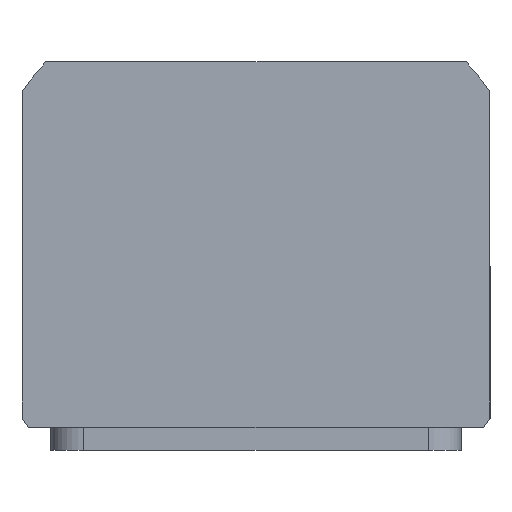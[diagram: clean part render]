
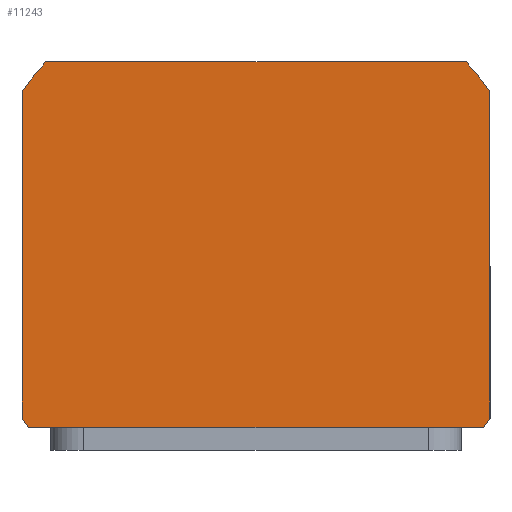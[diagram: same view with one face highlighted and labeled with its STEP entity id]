
A CAD part, top view. The second image highlights one B-rep face of the part: STEP entity #11243.
In plain terms, the highlighted planar face has unit normal (0, 0, 1) as drawn and (0, 0, -1) by its records, which use the part's own axes.
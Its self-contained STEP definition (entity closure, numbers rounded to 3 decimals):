
#468 = DIRECTION ( 'NONE',  ( 1., 0., 0. ) ) ;
#477 = DIRECTION ( 'NONE',  ( 0., 0., 1. ) ) ;
#709 = ORIENTED_EDGE ( 'NONE', *, *, #14661, .F. ) ;
#1284 = CARTESIAN_POINT ( 'NONE',  ( 0., 2.51, 0. ) ) ;
#1423 = CARTESIAN_POINT ( 'NONE',  ( -57., -37.255, 0. ) ) ;
#1649 = CIRCLE ( 'NONE', #9020, 69.5 ) ;
#1726 = DIRECTION ( 'NONE',  ( 0., 0., 1. ) ) ;
#2063 = DIRECTION ( 'NONE',  ( 0., 1., 0. ) ) ;
#2249 = CIRCLE ( 'NONE', #9626, 69.5 ) ;
#2324 = CARTESIAN_POINT ( 'NONE',  ( -57., 42.275, 0. ) ) ;
#2558 = EDGE_LOOP ( 'NONE', ( #16664, #17701, #3867, #2673, #16880, #7442, #709, #4887 ) ) ;
#2673 = ORIENTED_EDGE ( 'NONE', *, *, #3891, .F. ) ;
#2690 = DIRECTION ( 'NONE',  ( 1., 0., 0. ) ) ;
#3867 = ORIENTED_EDGE ( 'NONE', *, *, #11680, .F. ) ;
#3891 = EDGE_CURVE ( 'NONE', #12008, #8129, #15462, .T. ) ;
#4234 = VECTOR ( 'NONE', #11453, 1000. ) ;
#4260 = FACE_OUTER_BOUND ( 'NONE', #2558, .T. ) ;
#4364 = VERTEX_POINT ( 'NONE', #2324 ) ;
#4887 = ORIENTED_EDGE ( 'NONE', *, *, #6353, .F. ) ;
#5880 = AXIS2_PLACEMENT_3D ( 'NONE', #15808, #7352, #17219 ) ;
#6333 = CARTESIAN_POINT ( 'NONE',  ( 57., 44.5, 0. ) ) ;
#6353 = EDGE_CURVE ( 'NONE', #12999, #14727, #16367, .T. ) ;
#7268 = CARTESIAN_POINT ( 'NONE',  ( -57., -44.5, 0. ) ) ;
#7352 = DIRECTION ( 'NONE',  ( 0., 0., 1. ) ) ;
#7442 = ORIENTED_EDGE ( 'NONE', *, *, #14117, .F. ) ;
#7564 = EDGE_CURVE ( 'NONE', #17782, #12999, #17690, .T. ) ;
#7588 = VECTOR ( 'NONE', #16815, 1000. ) ;
#7753 = EDGE_CURVE ( 'NONE', #17582, #12008, #2249, .T. ) ;
#8129 = VERTEX_POINT ( 'NONE', #14696 ) ;
#8373 = CARTESIAN_POINT ( 'NONE',  ( -57., 44.5, 0. ) ) ;
#8894 = VECTOR ( 'NONE', #10187, 1000. ) ;
#8895 = DIRECTION ( 'NONE',  ( 0., 0., 1. ) ) ;
#9020 = AXIS2_PLACEMENT_3D ( 'NONE', #1284, #11104, #2690 ) ;
#9626 = AXIS2_PLACEMENT_3D ( 'NONE', #17346, #8895, #468 ) ;
#10138 = CARTESIAN_POINT ( 'NONE',  ( 0., 2.51, 0. ) ) ;
#10141 = CARTESIAN_POINT ( 'NONE',  ( 57., 42.275, 0. ) ) ;
#10187 = DIRECTION ( 'NONE',  ( -1., 0., 0. ) ) ;
#10317 = DIRECTION ( 'NONE',  ( 1., 0., 0. ) ) ;
#10422 = CARTESIAN_POINT ( 'NONE',  ( 57., -37.255, 0. ) ) ;
#11104 = DIRECTION ( 'NONE',  ( 0., 0., 1. ) ) ;
#11243 = ADVANCED_FACE ( 'NONE', ( #4260 ), #13044, .F. ) ;
#11314 = LINE ( 'NONE', #8373, #7588 ) ;
#11453 = DIRECTION ( 'NONE',  ( 1., 0., 0. ) ) ;
#11551 = DIRECTION ( 'NONE',  ( 1., 0., 0. ) ) ;
#11602 = CARTESIAN_POINT ( 'NONE',  ( -57., 44.5, 0. ) ) ;
#11680 = EDGE_CURVE ( 'NONE', #8129, #12687, #16566, .T. ) ;
#12008 = VERTEX_POINT ( 'NONE', #17650 ) ;
#12687 = VERTEX_POINT ( 'NONE', #10422 ) ;
#12999 = VERTEX_POINT ( 'NONE', #13123 ) ;
#13044 = PLANE ( 'NONE',  #18050 ) ;
#13123 = CARTESIAN_POINT ( 'NONE',  ( 55.382, 44.5, 0. ) ) ;
#13913 = AXIS2_PLACEMENT_3D ( 'NONE', #10138, #1726, #11551 ) ;
#14117 = EDGE_CURVE ( 'NONE', #4364, #17582, #11314, .T. ) ;
#14458 = VECTOR ( 'NONE', #2063, 1000. ) ;
#14661 = EDGE_CURVE ( 'NONE', #14727, #4364, #1649, .T. ) ;
#14696 = CARTESIAN_POINT ( 'NONE',  ( 51.189, -44.5, 0. ) ) ;
#14727 = VERTEX_POINT ( 'NONE', #18161 ) ;
#15462 = LINE ( 'NONE', #7268, #4234 ) ;
#15808 = CARTESIAN_POINT ( 'NONE',  ( 0., 2.51, 0. ) ) ;
#15931 = EDGE_CURVE ( 'NONE', #12687, #17782, #17323, .T. ) ;
#16367 = LINE ( 'NONE', #11602, #8894 ) ;
#16566 = CIRCLE ( 'NONE', #13913, 69.5 ) ;
#16664 = ORIENTED_EDGE ( 'NONE', *, *, #7564, .F. ) ;
#16815 = DIRECTION ( 'NONE',  ( 0., -1., 0. ) ) ;
#16880 = ORIENTED_EDGE ( 'NONE', *, *, #7753, .F. ) ;
#17219 = DIRECTION ( 'NONE',  ( 1., 0., 0. ) ) ;
#17323 = LINE ( 'NONE', #6333, #14458 ) ;
#17346 = CARTESIAN_POINT ( 'NONE',  ( 0., 2.51, 0. ) ) ;
#17358 = CARTESIAN_POINT ( 'NONE',  ( 0., 0., 0. ) ) ;
#17582 = VERTEX_POINT ( 'NONE', #1423 ) ;
#17650 = CARTESIAN_POINT ( 'NONE',  ( -51.189, -44.5, 0. ) ) ;
#17690 = CIRCLE ( 'NONE', #5880, 69.5 ) ;
#17701 = ORIENTED_EDGE ( 'NONE', *, *, #15931, .F. ) ;
#17782 = VERTEX_POINT ( 'NONE', #10141 ) ;
#18050 = AXIS2_PLACEMENT_3D ( 'NONE', #17358, #477, #10317 ) ;
#18161 = CARTESIAN_POINT ( 'NONE',  ( -55.382, 44.5, 0. ) ) ;
